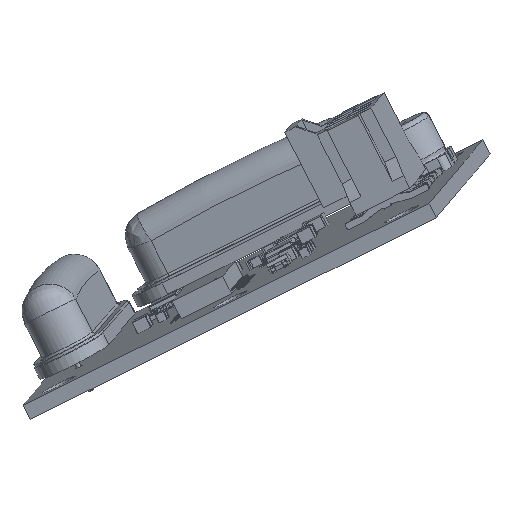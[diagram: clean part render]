
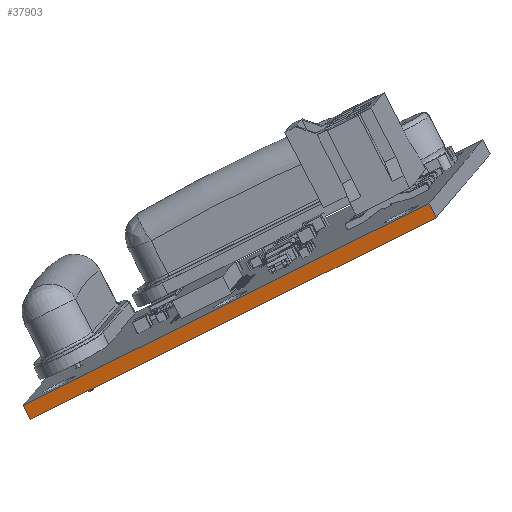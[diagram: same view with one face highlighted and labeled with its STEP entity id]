
A CAD part, isometric view. The second image highlights one B-rep face of the part: STEP entity #37903.
In plain terms, the highlighted planar face has unit normal (-0.707, -0.542, 0.455).
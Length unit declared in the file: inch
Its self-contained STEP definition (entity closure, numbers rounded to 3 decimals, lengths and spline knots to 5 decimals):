
#3582 = ORIENTED_EDGE ( 'NONE', *, *, #42863, .T. ) ;
#4676 = DIRECTION ( 'NONE',  ( 0., -0.643, -0.766 ) ) ;
#5791 = EDGE_CURVE ( 'NONE', #40499, #48747, #38597, .T. ) ;
#6059 = VECTOR ( 'NONE', #10361, 39.37008 ) ;
#10361 = DIRECTION ( 'NONE',  ( 0.707, -0.542, 0.455 ) ) ;
#12186 = VECTOR ( 'NONE', #68243, 39.37008 ) ;
#14569 = VECTOR ( 'NONE', #76604, 39.37008 ) ;
#14583 = CARTESIAN_POINT ( 'NONE',  ( 0.85519, -0.09524, 0.90413 ) ) ;
#15267 = LINE ( 'NONE', #46038, #14569 ) ;
#15445 = VERTEX_POINT ( 'NONE', #56121 ) ;
#19362 = CARTESIAN_POINT ( 'NONE',  ( 0.85519, -0.09524, 0.90413 ) ) ;
#22912 = LINE ( 'NONE', #98382, #12186 ) ;
#27142 = DIRECTION ( 'NONE',  ( 0.707, -0.542, 0.455 ) ) ;
#29184 = CARTESIAN_POINT ( 'NONE',  ( -0.39992, 0.86624, 0.09736 ) ) ;
#32356 = ORIENTED_EDGE ( 'NONE', *, *, #5791, .F. ) ;
#37728 = VECTOR ( 'NONE', #4676, 39.37008 ) ;
#37903 = ADVANCED_FACE ( 'NONE', ( #85994 ), #48368, .F. ) ;
#38597 = LINE ( 'NONE', #19362, #6059 ) ;
#40499 = VERTEX_POINT ( 'NONE', #29184 ) ;
#42863 = EDGE_CURVE ( 'NONE', #15445, #62038, #22912, .T. ) ;
#45264 = CARTESIAN_POINT ( 'NONE',  ( 0.85519, -0.1347, 0.85709 ) ) ;
#46038 = CARTESIAN_POINT ( 'NONE',  ( 0.85519, -0.09524, 0.90413 ) ) ;
#47602 = ORIENTED_EDGE ( 'NONE', *, *, #74485, .T. ) ;
#48368 = PLANE ( 'NONE',  #89912 ) ;
#48747 = VERTEX_POINT ( 'NONE', #14583 ) ;
#56121 = CARTESIAN_POINT ( 'NONE',  ( -0.39992, 0.82677, 0.05032 ) ) ;
#62038 = VERTEX_POINT ( 'NONE', #45264 ) ;
#65591 = CARTESIAN_POINT ( 'NONE',  ( -0.39992, 0.86624, 0.09736 ) ) ;
#68243 = DIRECTION ( 'NONE',  ( 0.707, -0.542, 0.455 ) ) ;
#74485 = EDGE_CURVE ( 'NONE', #40499, #15445, #88112, .T. ) ;
#76604 = DIRECTION ( 'NONE',  ( 0., -0.643, -0.766 ) ) ;
#79986 = EDGE_CURVE ( 'NONE', #48747, #62038, #15267, .T. ) ;
#84910 = EDGE_LOOP ( 'NONE', ( #3582, #88339, #32356, #47602 ) ) ;
#85994 = FACE_OUTER_BOUND ( 'NONE', #84910, .T. ) ;
#88112 = LINE ( 'NONE', #65591, #37728 ) ;
#88339 = ORIENTED_EDGE ( 'NONE', *, *, #79986, .F. ) ;
#89912 = AXIS2_PLACEMENT_3D ( 'NONE', #94542, #96023, #27142 ) ;
#94542 = CARTESIAN_POINT ( 'NONE',  ( 0.85519, -0.09524, 0.90413 ) ) ;
#96023 = DIRECTION ( 'NONE',  ( 0.707, 0.542, -0.455 ) ) ;
#98382 = CARTESIAN_POINT ( 'NONE',  ( 0.85519, -0.1347, 0.85709 ) ) ;
